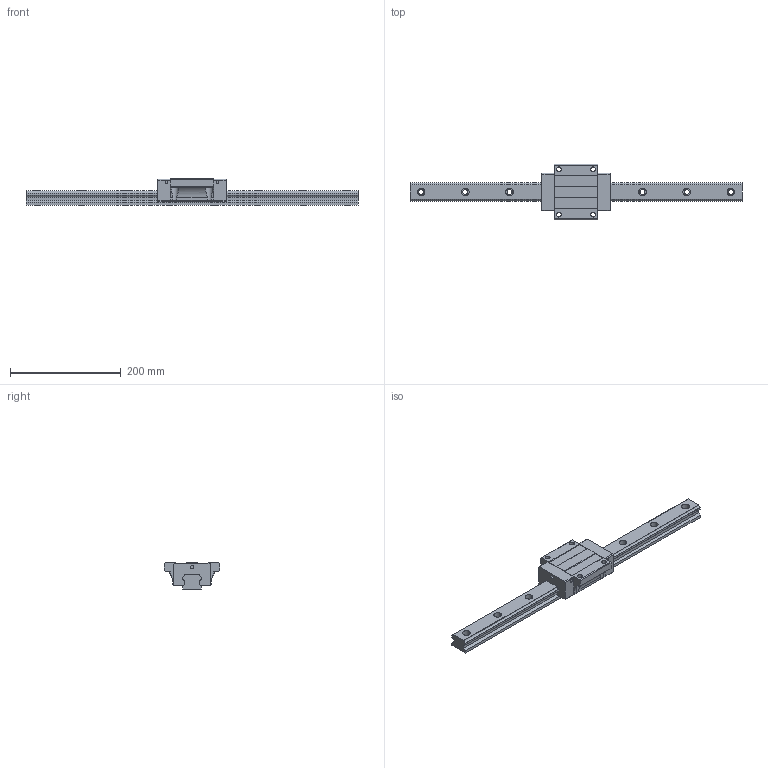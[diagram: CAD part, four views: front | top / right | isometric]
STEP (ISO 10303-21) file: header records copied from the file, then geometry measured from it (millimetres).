
FILE_DESCRIPTION (( 'STEP AP203' ), '1' );
FILE_NAME ('TRH35FN-SZ.STEP', '2024-06-26T06:42:45', ( '' ), ( '' ), 'SwSTEP 2.0', 'SolidWorks 2022', '' );
FILE_SCHEMA (( 'CONFIG_CONTROL_DESIGN' ));
Length unit declared in the file: millimetre
Products named in the file (1): TRH35FN-SZ
Bounding box: 600 x 100 x 48 mm (x, y, z)
Volume: 747080.9 mm3; surface area: 126618.9 mm2
Topology: 2 solids, 2 shells, 212 faces, 580 edges, 386 vertices
Faces by surface type: cylinder 112, plane 100
Entity records: 7449 total; most frequent: CARTESIAN_POINT 1801, DIRECTION 1174, ORIENTED_EDGE 1160, EDGE_CURVE 580, AXIS2_PLACEMENT_3D 409, VERTEX_POINT 386, VECTOR 356, LINE 356
